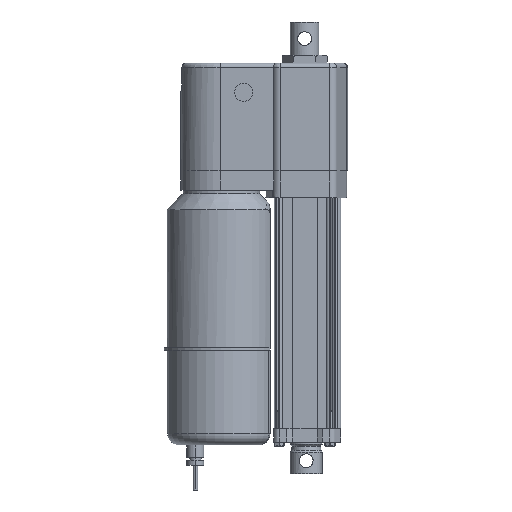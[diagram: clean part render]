
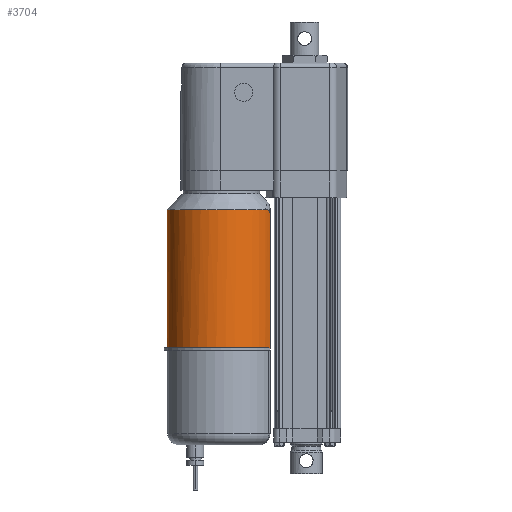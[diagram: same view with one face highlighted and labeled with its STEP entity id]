
A CAD part, left-side view. The second image highlights one B-rep face of the part: STEP entity #3704.
In plain terms, the highlighted cylindrical face has radius 48 mm (diameter 96 mm), a partial arc.
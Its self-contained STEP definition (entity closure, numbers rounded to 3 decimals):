
#770 = CARTESIAN_POINT ( 'NONE',  ( -27.908, 34.847, 53.5 ) ) ;
#774 = CARTESIAN_POINT ( 'NONE',  ( 20.715, 30.6, -69. ) ) ;
#776 = CARTESIAN_POINT ( 'NONE',  ( -20.715, 30.6, 48.141 ) ) ;
#777 = CARTESIAN_POINT ( 'NONE',  ( 20.715, 30.6, 48.141 ) ) ;
#780 = CARTESIAN_POINT ( 'NONE',  ( -20.715, 30.6, -69. ) ) ;
#916 = CARTESIAN_POINT ( 'NONE',  ( 0., 121.9, 53.5 ) ) ;
#918 = CARTESIAN_POINT ( 'NONE',  ( 27.908, 34.847, 53.5 ) ) ;
#1233 = CARTESIAN_POINT ( 'NONE',  ( -24.85, 32.831, 53.078 ) ) ;
#1234 = CARTESIAN_POINT ( 'NONE',  ( 22.996, 31.765, 52.253 ) ) ;
#1235 = CARTESIAN_POINT ( 'NONE',  ( 22.64, 31.573, 52.015 ) ) ;
#1236 = CARTESIAN_POINT ( 'NONE',  ( -20.715, 30.6, 128.5 ) ) ;
#1238 = CARTESIAN_POINT ( 'NONE',  ( -24.091, 32.381, 52.81 ) ) ;
#1239 = CARTESIAN_POINT ( 'NONE',  ( 27.908, 34.847, 53.5 ) ) ;
#1240 = CARTESIAN_POINT ( 'NONE',  ( -20.715, 30.6, 48.607 ) ) ;
#1241 = CARTESIAN_POINT ( 'NONE',  ( 22.153, 31.318, 51.594 ) ) ;
#1243 = CARTESIAN_POINT ( 'NONE',  ( 24.866, 32.84, 53.083 ) ) ;
#1244 = CARTESIAN_POINT ( 'NONE',  ( -20.715, 30.6, 48.141 ) ) ;
#1248 = CARTESIAN_POINT ( 'NONE',  ( 21.217, 30.844, 50.367 ) ) ;
#1249 = CARTESIAN_POINT ( 'NONE',  ( 20.715, 30.6, 128.5 ) ) ;
#1250 = CARTESIAN_POINT ( 'NONE',  ( 21.03, 30.752, 49.954 ) ) ;
#1252 = CARTESIAN_POINT ( 'NONE',  ( 25.248, 33.075, 53.187 ) ) ;
#1255 = CARTESIAN_POINT ( 'NONE',  ( 0., 73.9, -69. ) ) ;
#1256 = CARTESIAN_POINT ( 'NONE',  ( 26.394, 33.798, 53.43 ) ) ;
#1257 = CARTESIAN_POINT ( 'NONE',  ( 27.154, 34.308, 53.5 ) ) ;
#1258 = DIRECTION ( 'NONE',  ( 0., 0., -1. ) ) ;
#1259 = CARTESIAN_POINT ( 'NONE',  ( -26.391, 33.796, 53.43 ) ) ;
#1260 = CARTESIAN_POINT ( 'NONE',  ( -21.027, 30.751, 49.947 ) ) ;
#1261 = DIRECTION ( 'NONE',  ( 0., 0., 1. ) ) ;
#1264 = CARTESIAN_POINT ( 'NONE',  ( 20.715, 30.6, 48.141 ) ) ;
#1265 = CARTESIAN_POINT ( 'NONE',  ( 21.999, 31.238, 51.443 ) ) ;
#1268 = CARTESIAN_POINT ( 'NONE',  ( 20.715, 30.6, 48.608 ) ) ;
#1269 = CARTESIAN_POINT ( 'NONE',  ( 23.725, 32.171, 52.651 ) ) ;
#1270 = CARTESIAN_POINT ( 'NONE',  ( -25.236, 33.067, 53.184 ) ) ;
#1272 = CARTESIAN_POINT ( 'NONE',  ( 20.769, 30.626, 49.07 ) ) ;
#1273 = CARTESIAN_POINT ( 'NONE',  ( 24.101, 32.387, 52.814 ) ) ;
#1274 = CARTESIAN_POINT ( 'NONE',  ( 21.325, 30.897, 50.564 ) ) ;
#1275 = CARTESIAN_POINT ( 'NONE',  ( -21.321, 30.895, 50.558 ) ) ;
#1276 = CARTESIAN_POINT ( 'NONE',  ( -20.949, 30.713, 49.727 ) ) ;
#1277 = CARTESIAN_POINT ( 'NONE',  ( -21.565, 31.017, 50.931 ) ) ;
#1278 = CARTESIAN_POINT ( 'NONE',  ( -21.703, 31.086, 51.11 ) ) ;
#1279 = CARTESIAN_POINT ( 'NONE',  ( -22.149, 31.315, 51.59 ) ) ;
#1280 = CARTESIAN_POINT ( 'NONE',  ( 21.708, 31.089, 51.116 ) ) ;
#1281 = CARTESIAN_POINT ( 'NONE',  ( 21.57, 31.019, 50.938 ) ) ;
#1282 = CARTESIAN_POINT ( 'NONE',  ( -27.908, 34.847, 53.5 ) ) ;
#1285 = CARTESIAN_POINT ( 'NONE',  ( 20.952, 30.714, 49.736 ) ) ;
#1286 = CARTESIAN_POINT ( 'NONE',  ( -22.634, 31.57, 52.011 ) ) ;
#1287 = CARTESIAN_POINT ( 'NONE',  ( -20.768, 30.625, 49.063 ) ) ;
#1289 = CARTESIAN_POINT ( 'NONE',  ( -22.991, 31.762, 52.25 ) ) ;
#1290 = CARTESIAN_POINT ( 'NONE',  ( -21.994, 31.235, 51.438 ) ) ;
#1291 = CARTESIAN_POINT ( 'NONE',  ( -27.154, 34.308, 53.5 ) ) ;
#1292 = CARTESIAN_POINT ( 'NONE',  ( -23.718, 32.167, 52.648 ) ) ;
#1293 = CARTESIAN_POINT ( 'NONE',  ( -21.213, 30.842, 50.361 ) ) ;
#1638 = EDGE_CURVE ( 'NONE', #5632, #5628, #5339, .T. ) ;
#1640 = EDGE_CURVE ( 'NONE', #5770, #5629, #6139, .T. ) ;
#1642 = EDGE_CURVE ( 'NONE', #5629, #5626, #5344, .T. ) ;
#1643 = EDGE_CURVE ( 'NONE', #5628, #5622, #6138, .T. ) ;
#1644 = EDGE_CURVE ( 'NONE', #5626, #5632, #5349, .T. ) ;
#1694 = EDGE_CURVE ( 'NONE', #5768, #5622, #7218, .T. ) ;
#1762 = EDGE_CURVE ( 'NONE', #5770, #5768, #7321, .T. ) ;
#2024 = AXIS2_PLACEMENT_3D ( 'NONE', #1255, #5373, #10516 ) ;
#2055 = AXIS2_PLACEMENT_3D ( 'NONE', #10647, #10667, #10668 ) ;
#2080 = AXIS2_PLACEMENT_3D ( 'NONE', #10836, #10848, #10849 ) ;
#3684 = ORIENTED_EDGE ( 'NONE', *, *, #1762, .F. ) ;
#3685 = ORIENTED_EDGE ( 'NONE', *, *, #1640, .T. ) ;
#3686 = ORIENTED_EDGE ( 'NONE', *, *, #1642, .T. ) ;
#3687 = ORIENTED_EDGE ( 'NONE', *, *, #1644, .T. ) ;
#3688 = ORIENTED_EDGE ( 'NONE', *, *, #1638, .T. ) ;
#3689 = ORIENTED_EDGE ( 'NONE', *, *, #1643, .T. ) ;
#3690 = ORIENTED_EDGE ( 'NONE', *, *, #1694, .F. ) ;
#3704 = ADVANCED_FACE ( 'NONE', ( #10171 ), #10167, .T. ) ;
#4292 = EDGE_LOOP ( 'NONE', ( #3684, #3685, #3686, #3687, #3688, #3689, #3690 ) ) ;
#5334 = VECTOR ( 'NONE', #1261, 1000. ) ;
#5339 = LINE ( 'NONE', #1236, #5334 ) ;
#5342 = VECTOR ( 'NONE', #1258, 1000. ) ;
#5344 = LINE ( 'NONE', #1249, #5342 ) ;
#5349 = CIRCLE ( 'NONE', #2024, 48. ) ;
#5373 = DIRECTION ( 'NONE',  ( 0., 0., 1. ) ) ;
#5622 = VERTEX_POINT ( 'NONE', #770 ) ;
#5626 = VERTEX_POINT ( 'NONE', #774 ) ;
#5628 = VERTEX_POINT ( 'NONE', #776 ) ;
#5629 = VERTEX_POINT ( 'NONE', #777 ) ;
#5632 = VERTEX_POINT ( 'NONE', #780 ) ;
#5768 = VERTEX_POINT ( 'NONE', #916 ) ;
#5770 = VERTEX_POINT ( 'NONE', #918 ) ;
#6138 = B_SPLINE_CURVE_WITH_KNOTS ( 'NONE', 3,
 ( #1244, #1240, #1287, #1276, #1260, #1293, #1275, #1277, #1278, #1290, #1279, #1286, #1289, #1292, #1238, #1233, #1270, #1259, #1291, #1282 ),
 .UNSPECIFIED., .F., .F.,
 ( 4, 2, 2, 2, 2, 2, 2, 2, 2, 4 ),
 ( 0., 0.001, 0.002, 0.003, 0.003, 0.004, 0.006, 0.007, 0.008, 0.011 ),
 .UNSPECIFIED. ) ;
#6139 = B_SPLINE_CURVE_WITH_KNOTS ( 'NONE', 3,
 ( #1239, #1257, #1256, #1252, #1243, #1273, #1269, #1234, #1235, #1241, #1265, #1280, #1281, #1274, #1248, #1250, #1285, #1272, #1268, #1264 ),
 .UNSPECIFIED., .F., .F.,
 ( 4, 2, 2, 2, 2, 2, 2, 2, 2, 4 ),
 ( 0., 0.003, 0.004, 0.006, 0.007, 0.008, 0.008, 0.009, 0.01, 0.011 ),
 .UNSPECIFIED. ) ;
#7218 = CIRCLE ( 'NONE', #2055, 48. ) ;
#7321 = CIRCLE ( 'NONE', #2080, 48. ) ;
#8601 = AXIS2_PLACEMENT_3D ( 'NONE', #9910, #9909, #9908 ) ;
#9908 = DIRECTION ( 'NONE',  ( 0., -1., 0. ) ) ;
#9909 = DIRECTION ( 'NONE',  ( 0., 0., 1. ) ) ;
#9910 = CARTESIAN_POINT ( 'NONE',  ( 0., 73.9, 128.5 ) ) ;
#10167 = CYLINDRICAL_SURFACE ( 'NONE', #8601, 48. ) ;
#10171 = FACE_OUTER_BOUND ( 'NONE', #4292, .T. ) ;
#10516 = DIRECTION ( 'NONE',  ( 0., -1., 0. ) ) ;
#10647 = CARTESIAN_POINT ( 'NONE',  ( 0., 73.9, 53.5 ) ) ;
#10667 = DIRECTION ( 'NONE',  ( 0., 0., 1. ) ) ;
#10668 = DIRECTION ( 'NONE',  ( 0., -1., 0. ) ) ;
#10836 = CARTESIAN_POINT ( 'NONE',  ( 0., 73.9, 53.5 ) ) ;
#10848 = DIRECTION ( 'NONE',  ( 0., 0., 1. ) ) ;
#10849 = DIRECTION ( 'NONE',  ( 0., -1., 0. ) ) ;
